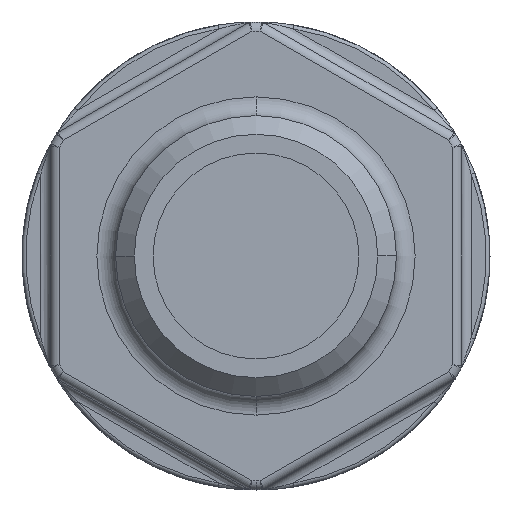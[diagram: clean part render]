
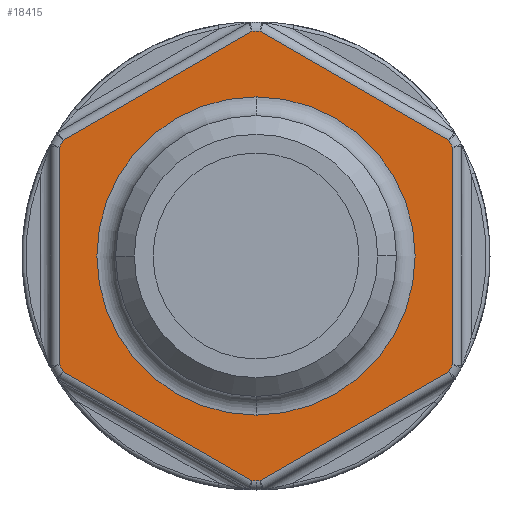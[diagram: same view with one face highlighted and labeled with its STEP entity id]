
A CAD part, front view. The second image highlights one B-rep face of the part: STEP entity #18415.
In plain terms, the highlighted planar face has unit normal (0, -1, 0).
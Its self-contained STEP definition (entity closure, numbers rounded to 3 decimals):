
#47 = AXIS2_PLACEMENT_3D ( 'NONE', #22601, #25011, #29503 ) ;
#151 = EDGE_CURVE ( 'NONE', #15080, #21087, #28905, .T. ) ;
#273 = VERTEX_POINT ( 'NONE', #1821 ) ;
#352 = ORIENTED_EDGE ( 'NONE', *, *, #19809, .T. ) ;
#642 = DIRECTION ( 'NONE',  ( 0., -1., 0. ) ) ;
#874 = CIRCLE ( 'NONE', #47, 8.5 ) ;
#947 = EDGE_CURVE ( 'NONE', #3488, #6350, #29998, .T. ) ;
#1147 = VERTEX_POINT ( 'NONE', #20783 ) ;
#1407 = CIRCLE ( 'NONE', #1951, 12. ) ;
#1735 = ORIENTED_EDGE ( 'NONE', *, *, #22639, .T. ) ;
#1821 = CARTESIAN_POINT ( 'NONE',  ( -10.281, 13.2, -6.189 ) ) ;
#1951 = AXIS2_PLACEMENT_3D ( 'NONE', #19456, #26661, #12336 ) ;
#2737 = EDGE_LOOP ( 'NONE', ( #352, #16183 ) ) ;
#2988 = CARTESIAN_POINT ( 'NONE',  ( -0.152, 13.2, -12.036 ) ) ;
#3157 = DIRECTION ( 'NONE',  ( 0., -1., 0. ) ) ;
#3292 = VERTEX_POINT ( 'NONE', #4244 ) ;
#3488 = VERTEX_POINT ( 'NONE', #20483 ) ;
#3703 = DIRECTION ( 'NONE',  ( 0.866, 0., -0.5 ) ) ;
#3705 = EDGE_CURVE ( 'NONE', #21167, #24835, #6359, .T. ) ;
#4018 = CARTESIAN_POINT ( 'NONE',  ( 0., 13.2, -12. ) ) ;
#4244 = CARTESIAN_POINT ( 'NONE',  ( -10.281, 13.2, 6.189 ) ) ;
#4549 = ORIENTED_EDGE ( 'NONE', *, *, #29896, .T. ) ;
#4652 = FACE_BOUND ( 'NONE', #2737, .T. ) ;
#4704 = EDGE_LOOP ( 'NONE', ( #20337, #8333, #8851, #25660, #6801, #24033, #8107, #30067, #4549, #21726, #17794, #27976, #1735 ) ) ;
#5547 = PLANE ( 'NONE',  #9826 ) ;
#5639 = VECTOR ( 'NONE', #28580, 1000. ) ;
#5645 = DIRECTION ( 'NONE',  ( 0.866, 0., 0.5 ) ) ;
#5674 = EDGE_CURVE ( 'NONE', #6350, #17582, #11979, .T. ) ;
#6154 = AXIS2_PLACEMENT_3D ( 'NONE', #22245, #29125, #7626 ) ;
#6218 = VECTOR ( 'NONE', #15453, 1000. ) ;
#6311 = DIRECTION ( 'NONE',  ( 0., 0., -1. ) ) ;
#6350 = VERTEX_POINT ( 'NONE', #29790 ) ;
#6359 = CIRCLE ( 'NONE', #6154, 8.5 ) ;
#6514 = CARTESIAN_POINT ( 'NONE',  ( 0., 13.2, 0. ) ) ;
#6591 = CIRCLE ( 'NONE', #11689, 12. ) ;
#6801 = ORIENTED_EDGE ( 'NONE', *, *, #5674, .T. ) ;
#6858 = CARTESIAN_POINT ( 'NONE',  ( 10.5, 13.2, 5.886 ) ) ;
#6996 = EDGE_CURVE ( 'NONE', #3292, #30343, #15311, .T. ) ;
#7004 = VERTEX_POINT ( 'NONE', #22827 ) ;
#7020 = CARTESIAN_POINT ( 'NONE',  ( 0., 13.2, 0. ) ) ;
#7331 = DIRECTION ( 'NONE',  ( 0., -1., 0. ) ) ;
#7353 = VECTOR ( 'NONE', #5645, 1000. ) ;
#7595 = VERTEX_POINT ( 'NONE', #24350 ) ;
#7626 = DIRECTION ( 'NONE',  ( 0., 0., -1. ) ) ;
#7776 = CIRCLE ( 'NONE', #23598, 12. ) ;
#8107 = ORIENTED_EDGE ( 'NONE', *, *, #29646, .T. ) ;
#8143 = CARTESIAN_POINT ( 'NONE',  ( -10.348, 13.2, 6.15 ) ) ;
#8333 = ORIENTED_EDGE ( 'NONE', *, *, #23035, .T. ) ;
#8836 = DIRECTION ( 'NONE',  ( 0., -1., 0. ) ) ;
#8851 = ORIENTED_EDGE ( 'NONE', *, *, #29765, .T. ) ;
#9211 = CARTESIAN_POINT ( 'NONE',  ( 0.152, 13.2, 12.036 ) ) ;
#9463 = DIRECTION ( 'NONE',  ( 0., -1., 0. ) ) ;
#9675 = CARTESIAN_POINT ( 'NONE',  ( -10.5, 13.2, 5.809 ) ) ;
#9826 = AXIS2_PLACEMENT_3D ( 'NONE', #20048, #3157, #15458 ) ;
#10208 = CARTESIAN_POINT ( 'NONE',  ( -10.5, 13.2, -5.886 ) ) ;
#10324 = VECTOR ( 'NONE', #29514, 1000. ) ;
#11474 = VERTEX_POINT ( 'NONE', #19748 ) ;
#11605 = DIRECTION ( 'NONE',  ( -0.866, 0., 0.5 ) ) ;
#11689 = AXIS2_PLACEMENT_3D ( 'NONE', #14146, #9463, #11847 ) ;
#11847 = DIRECTION ( 'NONE',  ( 0., 0., -1. ) ) ;
#11979 = LINE ( 'NONE', #6858, #5639 ) ;
#12127 = CARTESIAN_POINT ( 'NONE',  ( 0., 13.2, 0. ) ) ;
#12336 = DIRECTION ( 'NONE',  ( 0., 0., -1. ) ) ;
#13202 = VERTEX_POINT ( 'NONE', #15013 ) ;
#13569 = CARTESIAN_POINT ( 'NONE',  ( 10.5, 13.2, 5.809 ) ) ;
#13588 = AXIS2_PLACEMENT_3D ( 'NONE', #23128, #8836, #25349 ) ;
#13695 = LINE ( 'NONE', #15245, #7353 ) ;
#14146 = CARTESIAN_POINT ( 'NONE',  ( 0., 13.2, 0. ) ) ;
#15013 = CARTESIAN_POINT ( 'NONE',  ( -10.5, 13.2, -5.809 ) ) ;
#15080 = VERTEX_POINT ( 'NONE', #20350 ) ;
#15245 = CARTESIAN_POINT ( 'NONE',  ( 10.348, 13.2, -6.15 ) ) ;
#15311 = CIRCLE ( 'NONE', #13588, 12. ) ;
#15413 = LINE ( 'NONE', #2988, #18032 ) ;
#15453 = DIRECTION ( 'NONE',  ( -0.866, 0., -0.5 ) ) ;
#15458 = DIRECTION ( 'NONE',  ( 0., 0., -1. ) ) ;
#15501 = EDGE_CURVE ( 'NONE', #17582, #11474, #1407, .T. ) ;
#16039 = DIRECTION ( 'NONE',  ( 0., -1., 0. ) ) ;
#16183 = ORIENTED_EDGE ( 'NONE', *, *, #3705, .T. ) ;
#16544 = CIRCLE ( 'NONE', #22299, 12. ) ;
#16661 = DIRECTION ( 'NONE',  ( 0., -1., 0. ) ) ;
#16663 = CARTESIAN_POINT ( 'NONE',  ( 0., 13.2, 0. ) ) ;
#16965 = DIRECTION ( 'NONE',  ( 0., 0., -1. ) ) ;
#17582 = VERTEX_POINT ( 'NONE', #13569 ) ;
#17794 = ORIENTED_EDGE ( 'NONE', *, *, #30220, .T. ) ;
#18032 = VECTOR ( 'NONE', #3703, 1000. ) ;
#18415 = ADVANCED_FACE ( 'NONE', ( #19985, #4652 ), #5547, .T. ) ;
#18711 = AXIS2_PLACEMENT_3D ( 'NONE', #16663, #7331, #19353 ) ;
#19353 = DIRECTION ( 'NONE',  ( 0., 0., -1. ) ) ;
#19456 = CARTESIAN_POINT ( 'NONE',  ( 0., 13.2, 0. ) ) ;
#19748 = CARTESIAN_POINT ( 'NONE',  ( 10.281, 13.2, 6.189 ) ) ;
#19809 = EDGE_CURVE ( 'NONE', #24835, #21167, #874, .T. ) ;
#19985 = FACE_OUTER_BOUND ( 'NONE', #4704, .T. ) ;
#20048 = CARTESIAN_POINT ( 'NONE',  ( -12.5, 13.2, 0. ) ) ;
#20337 = ORIENTED_EDGE ( 'NONE', *, *, #151, .T. ) ;
#20350 = CARTESIAN_POINT ( 'NONE',  ( -0.219, 13.2, -11.998 ) ) ;
#20422 = LINE ( 'NONE', #10208, #10324 ) ;
#20483 = CARTESIAN_POINT ( 'NONE',  ( 10.281, 13.2, -6.189 ) ) ;
#20783 = CARTESIAN_POINT ( 'NONE',  ( 0.219, 13.2, -11.998 ) ) ;
#21087 = VERTEX_POINT ( 'NONE', #4018 ) ;
#21167 = VERTEX_POINT ( 'NONE', #26257 ) ;
#21562 = VECTOR ( 'NONE', #11605, 1000. ) ;
#21726 = ORIENTED_EDGE ( 'NONE', *, *, #6996, .T. ) ;
#22245 = CARTESIAN_POINT ( 'NONE',  ( 0., 13.2, 0. ) ) ;
#22299 = AXIS2_PLACEMENT_3D ( 'NONE', #12127, #642, #16965 ) ;
#22499 = AXIS2_PLACEMENT_3D ( 'NONE', #6514, #16039, #6311 ) ;
#22601 = CARTESIAN_POINT ( 'NONE',  ( 0., 13.2, 0. ) ) ;
#22639 = EDGE_CURVE ( 'NONE', #273, #15080, #15413, .T. ) ;
#22827 = CARTESIAN_POINT ( 'NONE',  ( -0.219, 13.2, 11.998 ) ) ;
#23035 = EDGE_CURVE ( 'NONE', #21087, #1147, #16544, .T. ) ;
#23128 = CARTESIAN_POINT ( 'NONE',  ( 0., 13.2, 0. ) ) ;
#23598 = AXIS2_PLACEMENT_3D ( 'NONE', #7020, #16661, #28547 ) ;
#24033 = ORIENTED_EDGE ( 'NONE', *, *, #15501, .T. ) ;
#24350 = CARTESIAN_POINT ( 'NONE',  ( 0.219, 13.2, 11.998 ) ) ;
#24557 = LINE ( 'NONE', #8143, #6218 ) ;
#24835 = VERTEX_POINT ( 'NONE', #25276 ) ;
#25011 = DIRECTION ( 'NONE',  ( 0., 1., 0. ) ) ;
#25276 = CARTESIAN_POINT ( 'NONE',  ( 0., 13.2, -8.5 ) ) ;
#25349 = DIRECTION ( 'NONE',  ( 0., 0., -1. ) ) ;
#25660 = ORIENTED_EDGE ( 'NONE', *, *, #947, .T. ) ;
#26257 = CARTESIAN_POINT ( 'NONE',  ( 0., 13.2, 8.5 ) ) ;
#26661 = DIRECTION ( 'NONE',  ( 0., -1., 0. ) ) ;
#27914 = LINE ( 'NONE', #9211, #21562 ) ;
#27976 = ORIENTED_EDGE ( 'NONE', *, *, #28090, .T. ) ;
#28090 = EDGE_CURVE ( 'NONE', #13202, #273, #7776, .T. ) ;
#28547 = DIRECTION ( 'NONE',  ( 0., 0., -1. ) ) ;
#28580 = DIRECTION ( 'NONE',  ( 0., 0., 1. ) ) ;
#28905 = CIRCLE ( 'NONE', #22499, 12. ) ;
#29125 = DIRECTION ( 'NONE',  ( 0., 1., 0. ) ) ;
#29318 = EDGE_CURVE ( 'NONE', #7595, #7004, #6591, .T. ) ;
#29503 = DIRECTION ( 'NONE',  ( 0., 0., -1. ) ) ;
#29514 = DIRECTION ( 'NONE',  ( 0., 0., -1. ) ) ;
#29646 = EDGE_CURVE ( 'NONE', #11474, #7595, #27914, .T. ) ;
#29765 = EDGE_CURVE ( 'NONE', #1147, #3488, #13695, .T. ) ;
#29790 = CARTESIAN_POINT ( 'NONE',  ( 10.5, 13.2, -5.809 ) ) ;
#29896 = EDGE_CURVE ( 'NONE', #7004, #3292, #24557, .T. ) ;
#29998 = CIRCLE ( 'NONE', #18711, 12. ) ;
#30067 = ORIENTED_EDGE ( 'NONE', *, *, #29318, .T. ) ;
#30220 = EDGE_CURVE ( 'NONE', #30343, #13202, #20422, .T. ) ;
#30343 = VERTEX_POINT ( 'NONE', #9675 ) ;
